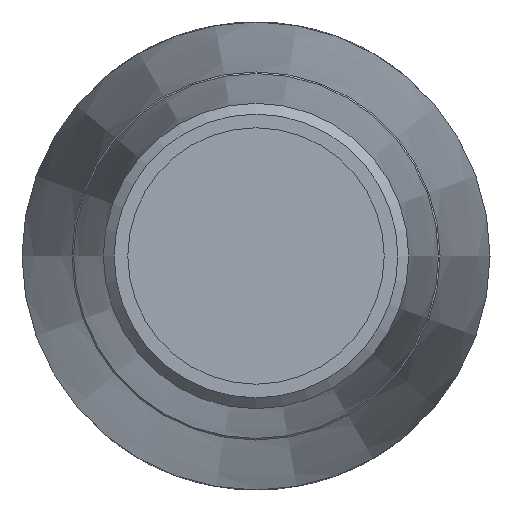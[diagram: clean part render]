
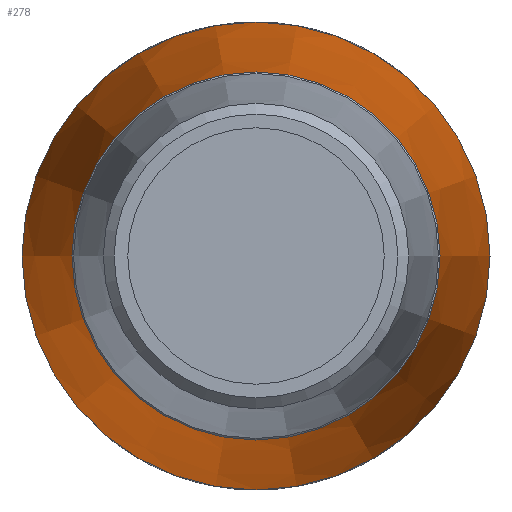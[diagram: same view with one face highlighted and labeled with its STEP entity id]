
A CAD part, left-side view. The second image highlights one B-rep face of the part: STEP entity #278.
In plain terms, the highlighted conical face has half-angle 5 degrees and reference radius 10.25 mm.
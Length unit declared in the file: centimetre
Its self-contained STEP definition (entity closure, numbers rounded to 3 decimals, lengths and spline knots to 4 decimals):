
#46=FACE_BOUND('',#86,.T.);
#63=FACE_OUTER_BOUND('',#85,.T.);
#85=EDGE_LOOP('',(#191));
#86=EDGE_LOOP('',(#192));
#121=CIRCLE('',#301,0.9044);
#123=CIRCLE('',#304,1.15);
#137=VERTEX_POINT('',#423);
#139=VERTEX_POINT('',#428);
#161=EDGE_CURVE('',#137,#137,#121,.T.);
#163=EDGE_CURVE('',#139,#139,#123,.T.);
#191=ORIENTED_EDGE('',*,*,#163,.T.);
#192=ORIENTED_EDGE('',*,*,#161,.F.);
#246=CONICAL_SURFACE('',#303,1.025,5.);
#278=ADVANCED_FACE('',(#63,#46),#246,.T.);
#301=AXIS2_PLACEMENT_3D('',#424,#341,#342);
#303=AXIS2_PLACEMENT_3D('',#427,#345,#346);
#304=AXIS2_PLACEMENT_3D('',#429,#347,#348);
#341=DIRECTION('center_axis',(-1.,0.,0.));
#342=DIRECTION('ref_axis',(0.,1.,0.));
#345=DIRECTION('center_axis',(1.,0.,0.));
#346=DIRECTION('ref_axis',(0.,-1.,0.));
#347=DIRECTION('center_axis',(-1.,0.,0.));
#348=DIRECTION('ref_axis',(0.,0.,-1.));
#423=CARTESIAN_POINT('',(-6.2502,-0.9044,0.));
#424=CARTESIAN_POINT('Origin',(-6.2502,0.,
0.));
#427=CARTESIAN_POINT('Origin',(-4.8712,0.,0.));
#428=CARTESIAN_POINT('',(-3.4425,-1.15,0.));
#429=CARTESIAN_POINT('Origin',(-3.4425,0.,0.));
